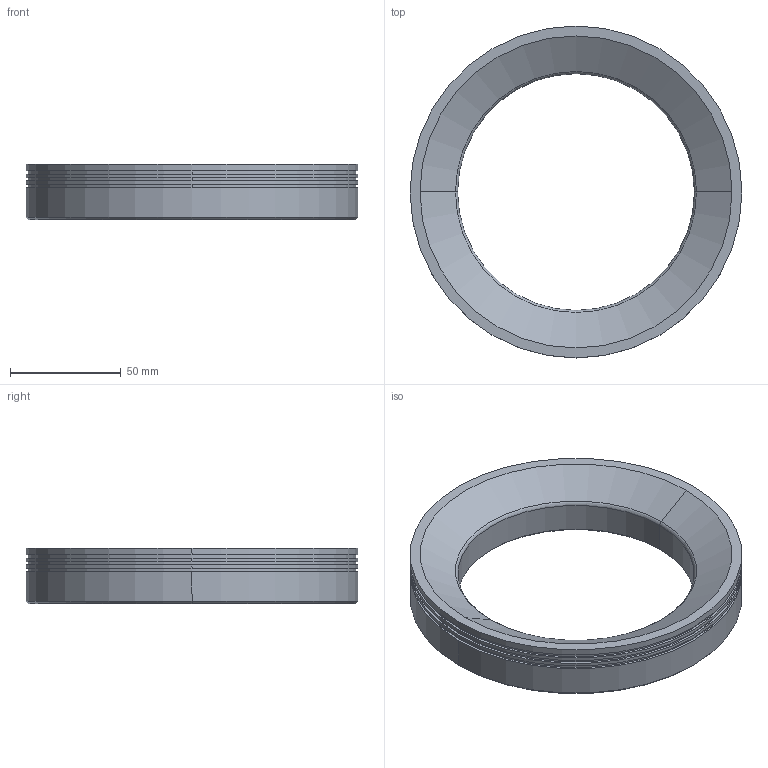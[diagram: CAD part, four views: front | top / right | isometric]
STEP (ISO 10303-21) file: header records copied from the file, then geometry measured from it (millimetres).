
FILE_DESCRIPTION((''),'2;1');
FILE_NAME('DRL7030','2020-03-28T',('ASUS'),(''),'PRO/ENGINEER BY PARAMETRIC TECHNOLOGY CORPORATION, 2008380','PRO/ENGINEER BY PARAMETRIC TECHNOLOGY CORPORATION, 2008380','');
FILE_SCHEMA(('CONFIG_CONTROL_DESIGN'));
Length unit declared in the file: millimetre
Products named in the file (1): DRL7030
Bounding box: 150 x 150 x 25 mm (x, y, z)
Volume: 183226 mm3; surface area: 37948.8 mm2
Topology: 1 solids, 5 shells, 68 faces, 152 edges, 92 vertices
Faces by surface type: cylinder 32, cone 22, plane 12, torus 2
Entity records: 1901 total; most frequent: DIRECTION 372, CARTESIAN_POINT 305, ORIENTED_EDGE 272, AXIS2_PLACEMENT_3D 159, EDGE_CURVE 144, VERTEX_POINT 92, CIRCLE 90, EDGE_LOOP 84
